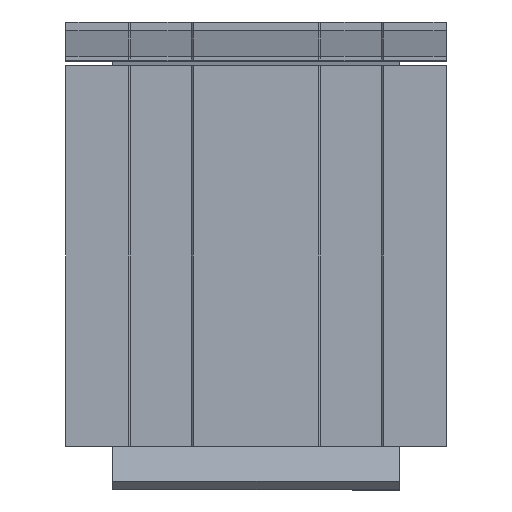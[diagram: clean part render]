
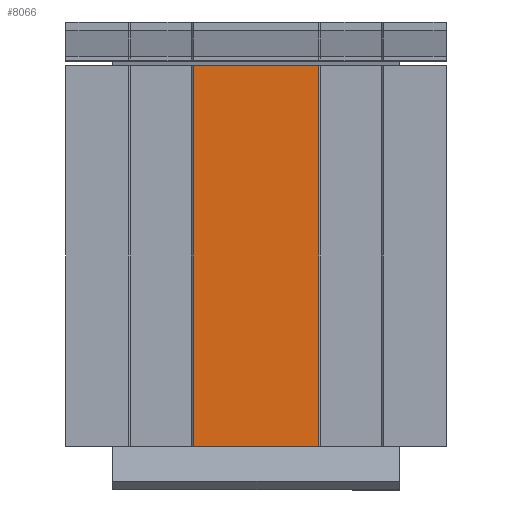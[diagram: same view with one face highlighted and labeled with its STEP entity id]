
A CAD part, left-side view. The second image highlights one B-rep face of the part: STEP entity #8066.
In plain terms, the highlighted planar face has unit normal (-1, 0, 0).
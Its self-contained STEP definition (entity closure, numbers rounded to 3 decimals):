
#286=FACE_OUTER_BOUND('',#707,.T.);
#707=EDGE_LOOP('',(#6573,#6574,#6575,#6576));
#1306=LINE('',#11529,#2463);
#1440=LINE('',#11792,#2597);
#1622=LINE('',#12151,#2779);
#1638=LINE('',#12183,#2795);
#2463=VECTOR('',#9342,10.);
#2597=VECTOR('',#9530,10.);
#2779=VECTOR('',#9880,10.);
#2795=VECTOR('',#9928,10.);
#3497=VERTEX_POINT('',#11526);
#3498=VERTEX_POINT('',#11528);
#3599=VERTEX_POINT('',#11789);
#3600=VERTEX_POINT('',#11791);
#4366=EDGE_CURVE('',#3497,#3498,#1306,.T.);
#4500=EDGE_CURVE('',#3599,#3600,#1440,.T.);
#4682=EDGE_CURVE('',#3599,#3498,#1622,.T.);
#4698=EDGE_CURVE('',#3497,#3600,#1638,.T.);
#6573=ORIENTED_EDGE('',*,*,#4682,.T.);
#6574=ORIENTED_EDGE('',*,*,#4366,.F.);
#6575=ORIENTED_EDGE('',*,*,#4698,.T.);
#6576=ORIENTED_EDGE('',*,*,#4500,.F.);
#7652=PLANE('',#8498);
#8066=ADVANCED_FACE('',(#286),#7652,.F.);
#8498=AXIS2_PLACEMENT_3D('',#12193,#9945,#9946);
#9342=DIRECTION('',(0.,1.,0.));
#9530=DIRECTION('',(0.,-1.,0.));
#9880=DIRECTION('',(0.,0.,-1.));
#9928=DIRECTION('',(0.,0.,1.));
#9945=DIRECTION('center_axis',(1.,0.,0.));
#9946=DIRECTION('ref_axis',(0.,0.,1.));
#11526=CARTESIAN_POINT('',(5.,-16.3,2.));
#11528=CARTESIAN_POINT('',(5.,-9.7,2.));
#11529=CARTESIAN_POINT('',(5.,-13.,2.));
#11789=CARTESIAN_POINT('',(5.,-9.7,22.));
#11791=CARTESIAN_POINT('',(5.,-16.3,22.));
#11792=CARTESIAN_POINT('',(5.,-13.,22.));
#12151=CARTESIAN_POINT('',(5.,-9.7,18.));
#12183=CARTESIAN_POINT('',(5.,-16.3,18.));
#12193=CARTESIAN_POINT('Origin',(5.,-13.,12.));
